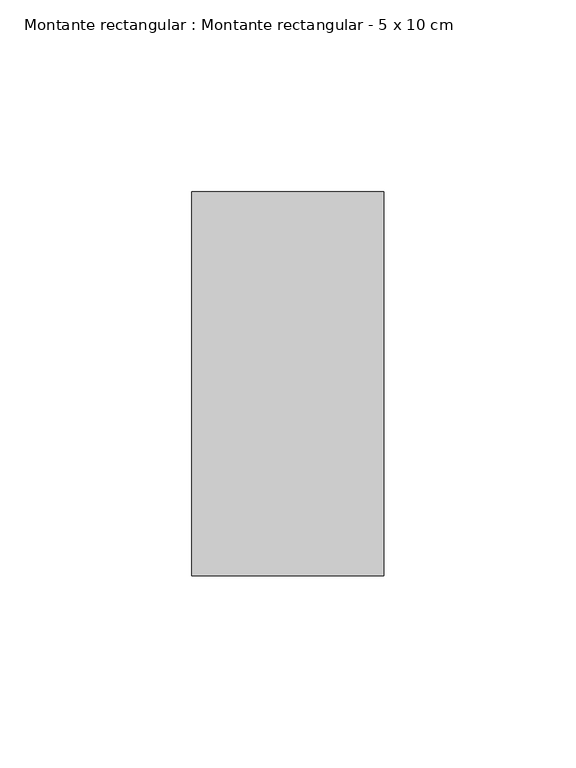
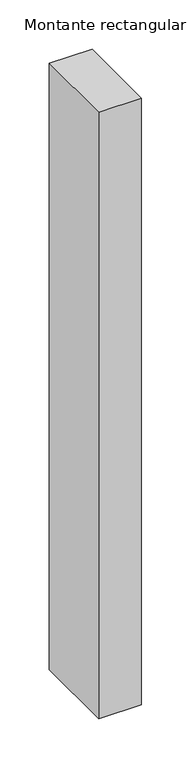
"""IFC4 building model written with IfcOpenShell, lengths in millimetres: member geometry, Montante rectangular : Montante rectangular - 5 x 10 cm."""

from ifc_helpers import new_model, si_unit, frame, origin, place, context, project, spatial, polyline, outline, extrude, source, transform, mapped, element, save


def montante_rectangular_montante_rectangular_5_x_10_cm_acebee0b(model_context):
    return source(origin(), model_context, "Body", "SweptSolid", [
        extrude(outline(polyline([(-50.0, 50.0), (0.0, 50.0), (0.0, -50.0), (-50.0, -50.0), (-50.0, 50.0)])), frame((0.0, 0.0, -750.0), z_axis=(0.0, 0.0, 1.0), x_axis=(1.0, 0.0, 0.0)), (0.0, 0.0, 1.0), 750.0),
    ])


if __name__ == "__main__":
    model = new_model("IFC4")
    model_context = context("Model", 3, world=origin())
    ifc_project = project(units=[si_unit("LENGTHUNIT", "METRE", prefix="MILLI")], contexts=[model_context])
    site = spatial("IfcSite", under=ifc_project)
    building = spatial("IfcBuilding", under=site)
    placement = place(None, origin())
    montante_rectangular_montante_rectangular_5_x_10_cm_shape = montante_rectangular_montante_rectangular_5_x_10_cm_acebee0b(model_context)
    element("IfcMember", 1, ObjectType="Montante rectangular : Montante rectangular - 5 x 10 cm", at=placement, inside=building, context=model_context, shape_type="MappedRepresentation", body=[
        mapped(montante_rectangular_montante_rectangular_5_x_10_cm_shape, transform((0.0, 0.0, 0.0), x_axis=(1.0, 0.0, 0.0), y_axis=(0.0, 1.0, 0.0), z_axis=(0.0, 0.0, 1.0))),
    ])
    save(model, "model.ifc")
